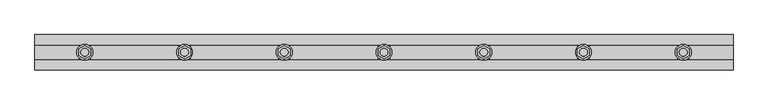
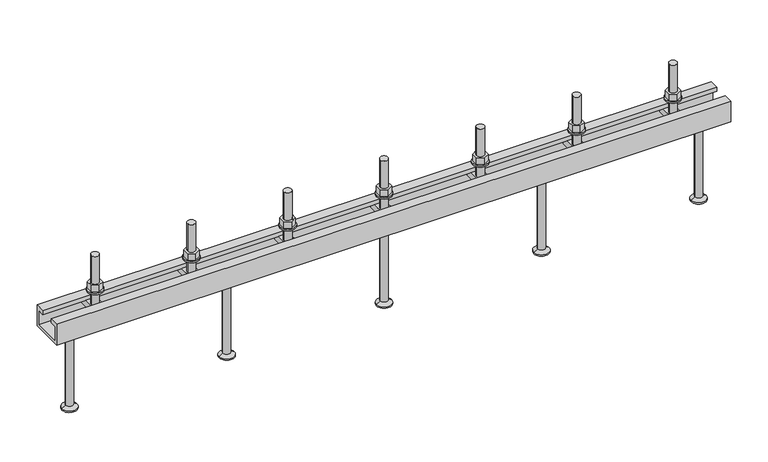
"""IFC4 building model written with IfcOpenShell, lengths in millimetres: fastener geometry, JTA-W JORDAHL® AnchorChannels : JTA-W L=1050 mm."""

import ifcopenshell
import ifcopenshell.guid

model = None  # the IFC model being written
_history = None  # IfcOwnerHistory: only IFC2X3 demands one
_inside = {}  # id of a spatial element -> (the spatial element, [elements in it])
_under = {}  # id of a project, library or spatial element -> (it, [spatial elements below it])
_declared = {}  # id of a project -> (the project, [libraries it declares])
_typed = {}  # id of a type object -> (the type object, [elements of that type])
_made_of = {}  # id of a material, layer set ... -> (it, [elements and type objects made of it])


def new_model(schema):
    """Start an empty IFC model of exactly this schema.

    Asked for "IFC4X3", IfcOpenShell would pick the latest addendum, in which some entities
    have other attributes; the version numbers below select the first issue.
    IFC2X3 requires an IfcOwnerHistory on every rooted entity: one is made here for all.
    """
    global model, _history
    if schema == "IFC4X3":
        model = ifcopenshell.file(schema_version=(4, 3, 0, 0))
    else:
        model = ifcopenshell.file(schema=schema)
    _inside.clear()
    _under.clear()
    _declared.clear()
    _typed.clear()
    _made_of.clear()
    _history = None
    if model.schema == "IFC2X3":
        org = make("IfcOrganization", Name="unknown")
        user = make(
            "IfcPersonAndOrganization",
            ThePerson=make("IfcPerson", FamilyName="unknown"),
            TheOrganization=org,
        )
        app = make(
            "IfcApplication",
            ApplicationDeveloper=org,
            Version="unknown",
            ApplicationFullName="unknown",
            ApplicationIdentifier="unknown",
        )
        _history = make(
            "IfcOwnerHistory",
            OwningUser=user,
            OwningApplication=app,
            ChangeAction="ADDED",
            CreationDate=0,
        )
    return model


def make(cls, **values):
    """One entity of the class cls with the attributes given. An attribute that is None is left unset."""
    return model.create_entity(
        cls, **{name: value for name, value in values.items() if value is not None}
    )


def rooted(cls, **values):
    """An entity with a GlobalId (a new one), such as an element, a storey or a relation."""
    return make(cls, GlobalId=ifcopenshell.guid.new(), OwnerHistory=_history, **values)


def si_unit(unit_type, name, prefix=None):
    """IfcSIUnit, for example si_unit("LENGTHUNIT", "METRE", prefix="MILLI")."""
    return make("IfcSIUnit", UnitType=unit_type, Prefix=prefix, Name=name)


def assignment(units):
    """IfcUnitAssignment: the units of a project."""
    return None if units is None else make("IfcUnitAssignment", Units=units)


def point(xyz):
    """IfcCartesianPoint."""
    return None if xyz is None else make("IfcCartesianPoint", Coordinates=xyz)


def direction(xyz):
    """IfcDirection."""
    return None if xyz is None else make("IfcDirection", DirectionRatios=xyz)


def frame(location, z_axis=None, x_axis=None):
    """IfcAxis2Placement3D, a coordinate frame: its origin and axes. An axis left out is left unset."""
    return make(
        "IfcAxis2Placement3D",
        Location=point(location),
        Axis=direction(z_axis),
        RefDirection=direction(x_axis),
    )


def frame_2d(location, x_axis=None):
    """IfcAxis2Placement2D, a coordinate frame in the plane: its origin and x axis."""
    return make(
        "IfcAxis2Placement2D", Location=point(location), RefDirection=direction(x_axis)
    )


def origin():
    """The frame at (0, 0, 0) with its axes left unset."""
    return frame((0.0, 0.0, 0.0))


def place(relative_to, where):
    """IfcLocalPlacement: puts the frame where relative to a parent placement (None: the world)."""
    return make(
        "IfcLocalPlacement", PlacementRelTo=relative_to, RelativePlacement=where
    )


def context(
    kind, dimensions, precision=None, world=None, true_north=None, identifier=None
):
    """IfcGeometricRepresentationContext, for example the 3D "Model" context."""
    return make(
        "IfcGeometricRepresentationContext",
        ContextIdentifier=identifier,
        ContextType=kind,
        CoordinateSpaceDimension=dimensions,
        Precision=precision,
        WorldCoordinateSystem=world,
        TrueNorth=true_north,
    )


def project(units=None, contexts=None):
    """IfcProject with its units and contexts."""
    return rooted(
        "IfcProject",
        Name="project",
        RepresentationContexts=contexts,
        UnitsInContext=assignment(units),
    )


def spatial(cls, under=None, at=None, **own):
    """A site, building, storey or space (cls), placed at a placement, below another one or the project."""
    s = rooted(cls, ObjectPlacement=at, **own)
    if under is not None:
        _under.setdefault(under.id(), (under, []))[1].append(s)
    return s


def polyline(points):
    """IfcPolyline through the points."""
    return make("IfcPolyline", Points=[point(p) for p in points])


def circle_curve(where, radius):
    """IfcCircle in the frame where."""
    return make("IfcCircle", Position=where, Radius=radius)


def trimmed(basis, trim1, trim2, sense, master):
    """IfcTrimmedCurve: the piece of a basis curve between two trims."""
    return make(
        "IfcTrimmedCurve",
        BasisCurve=basis,
        Trim1=trim1,
        Trim2=trim2,
        SenseAgreement=sense,
        MasterRepresentation=master,
    )


def segment(curve, same_sense, transition):
    """IfcCompositeCurveSegment."""
    return make(
        "IfcCompositeCurveSegment",
        Transition=transition,
        SameSense=same_sense,
        ParentCurve=curve,
    )


def composite_curve(segments, self_intersect=None):
    """IfcCompositeCurve: segments joined end to end."""
    return make("IfcCompositeCurve", Segments=segments, SelfIntersect=self_intersect)


def outline(outer, holes=None, kind="AREA"):
    """IfcArbitraryClosedProfileDef: a profile drawn as a closed curve; with holes, ...WithVoids."""
    if holes is None:
        return make("IfcArbitraryClosedProfileDef", ProfileType=kind, OuterCurve=outer)
    return make(
        "IfcArbitraryProfileDefWithVoids",
        ProfileType=kind,
        OuterCurve=outer,
        InnerCurves=holes,
    )


def extrude(swept, where, along, depth):
    """IfcExtrudedAreaSolid: the profile swept, set in the frame where, extruded along a direction by depth."""
    return make(
        "IfcExtrudedAreaSolid",
        SweptArea=swept,
        Position=where,
        ExtrudedDirection=direction(along),
        Depth=depth,
    )


def shape(context_of_items, identifier, shape_type, items):
    """IfcShapeRepresentation: the items that make up one representation, for example the "Body"."""
    return make(
        "IfcShapeRepresentation",
        ContextOfItems=context_of_items,
        RepresentationIdentifier=identifier,
        RepresentationType=shape_type,
        Items=items,
    )


def source(mapping_origin, context_of_items, identifier, shape_type, items):
    """IfcRepresentationMap: a shape defined once, which mapped items show again and again."""
    return make(
        "IfcRepresentationMap",
        MappingOrigin=mapping_origin,
        MappedRepresentation=shape(context_of_items, identifier, shape_type, items),
    )


def transform(
    local_origin,
    x_axis=None,
    y_axis=None,
    z_axis=None,
    scale=None,
    scale2=None,
    scale3=None,
    uniform=True,
):
    """IfcCartesianTransformationOperator3D, or its non-uniform kind. x_axis, y_axis, z_axis: its Axis1, 2, 3."""
    if uniform:
        return make(
            "IfcCartesianTransformationOperator3D",
            Axis1=direction(x_axis),
            Axis2=direction(y_axis),
            LocalOrigin=point(local_origin),
            Scale=scale,
            Axis3=direction(z_axis),
        )
    return make(
        "IfcCartesianTransformationOperator3DnonUniform",
        Axis1=direction(x_axis),
        Axis2=direction(y_axis),
        LocalOrigin=point(local_origin),
        Scale=scale,
        Axis3=direction(z_axis),
        Scale2=scale2,
        Scale3=scale3,
    )


def mapped(mapping_source, mapping_target):
    """IfcMappedItem: shows the shape of a source again, moved by a transform."""
    return make(
        "IfcMappedItem", MappingSource=mapping_source, MappingTarget=mapping_target
    )


def made_of(thing, what):
    """Note that an element or type object is made of a material, layer set ...; save() writes the relation."""
    if what is not None:
        _made_of.setdefault(what.id(), (what, []))[1].append(thing)
    return thing


def element(
    cls,
    number,
    at=None,
    inside=None,
    cuts=None,
    type_object=None,
    material=None,
    context=None,
    identifier="Body",
    shape_type=None,
    held_by="IfcProductDefinitionShape",
    body=None,
    shapes=None,
    **own,
):
    """One element of the class cls, such as IfcWall. Its Tag is "e" and its number.

    at: its placement. inside: the storey or other place that contains it. cuts: it is an
    opening in that element (IfcRelVoidsElement). A single representation is given by context,
    identifier, shape_type and body (its items); several are given by shapes. held_by: the class
    of the entity that holds the representations. save() writes the other relations.
    """
    e = rooted(cls, Tag="e%d" % number, ObjectPlacement=at, **own)
    if body is not None:
        shapes = [shape(context, identifier, shape_type, body)]
    if shapes is not None:
        e.Representation = make(held_by, Representations=shapes)
    if inside is not None:
        _inside.setdefault(inside.id(), (inside, []))[1].append(e)
    if cuts is not None:
        rooted(
            "IfcRelVoidsElement", RelatingBuildingElement=cuts, RelatedOpeningElement=e
        )
    if type_object is not None:
        _typed.setdefault(type_object.id(), (type_object, []))[1].append(e)
    return made_of(e, material)


def aggregate(whole, parts):
    """IfcRelAggregates: a whole, such as a stair, and the parts it consists of."""
    return rooted("IfcRelAggregates", RelatingObject=whole, RelatedObjects=parts)


def save(model, path):
    """Write the relations noted so far, then the file.

    IfcRelAggregates (storeys below a building ...), IfcRelContainedInSpatialStructure (elements
    in a storey), IfcRelDefinesByType, IfcRelAssociatesMaterial and IfcRelDeclares: one each for
    every whole, place, type object, material and project.
    """
    for whole, parts in _under.values():
        aggregate(whole, parts)
    for where, things in _inside.values():
        rooted(
            "IfcRelContainedInSpatialStructure",
            RelatedElements=things,
            RelatingStructure=where,
        )
    for kind, things in _typed.values():
        rooted("IfcRelDefinesByType", RelatedObjects=things, RelatingType=kind)
    for what, things in _made_of.values():
        rooted("IfcRelAssociatesMaterial", RelatedObjects=things, RelatingMaterial=what)
    for by, libraries in _declared.values():
        rooted("IfcRelDeclares", RelatingContext=by, RelatedDefinitions=libraries)
    model.write(path)


def plane_surface(at):
    """IfcPlane: the flat surface through the origin of the frame at, square to its z axis."""
    return make("IfcPlane", Position=at)


def cylinder_surface(at, radius):
    """IfcCylindricalSurface: all points at the distance radius from the z axis of the frame at."""
    return make("IfcCylindricalSurface", Position=at, Radius=radius)


def revolved_surface(curve, axis_point, axis_direction):
    """IfcSurfaceOfRevolution: the curve turned about the line through axis_point along axis_direction."""
    return make(
        "IfcSurfaceOfRevolution",
        SweptCurve=make("IfcArbitraryOpenProfileDef", ProfileType="CURVE", Curve=curve),
        AxisPosition=make("IfcAxis1Placement", Location=point(axis_point), Axis=direction(axis_direction)),
    )


def advanced_brep(points, edges, surfaces, faces):
    """IfcAdvancedBrep: a solid bounded by faces that lie on surfaces and meet in shared edges.

    An edge is (start, end): straight between two places in points (the first is 0);
    or (start, end, curve); or (start, end, curve, False) where it runs against its curve.
    A face is (place in surfaces, loops), or (place, loops, False) where it looks against
    its surface's normal. A loop lists edges by number (the first is 1), with a minus sign
    where the edge is run from its end to its start. The first loop is the outer one.
    """
    corners = [point(p) for p in points]
    vertices = [make("IfcVertexPoint", VertexGeometry=c) for c in corners]
    made = []
    for start, end, *more in edges:
        made.append(
            make(
                "IfcEdgeCurve",
                EdgeStart=vertices[start],
                EdgeEnd=vertices[end],
                EdgeGeometry=more[0] if more else make("IfcPolyline", Points=[corners[start], corners[end]]),
                SameSense=more[1] if len(more) > 1 else True,
            )
        )
    hull = []
    for where, loops, *sense in faces:
        bounds = []
        for j, loop in enumerate(loops):
            ring = [make("IfcOrientedEdge", EdgeElement=made[abs(k) - 1], Orientation=k > 0) for k in loop]
            bounds.append(
                make(
                    "IfcFaceOuterBound" if j == 0 else "IfcFaceBound",
                    Bound=make("IfcEdgeLoop", EdgeList=ring),
                    Orientation=True,
                )
            )
        hull.append(make("IfcAdvancedFace", Bounds=bounds, FaceSurface=surfaces[where], SameSense=sense[0] if sense else True))
    return make("IfcAdvancedBrep", Outer=make("IfcClosedShell", CfsFaces=hull))


def fastener_445ed979(model_context):
    return source(origin(), model_context, "Body", "SolidModel", [
        extrude(outline(polyline([(825.0, -10.3923048), (816.0, -5.1961524), (816.0, 5.1961524), (825.0, 10.3923048), (834.0, 5.1961524), (834.0, -5.1961524), (825.0, -10.3923048)]), holes=[composite_curve([segment(trimmed(circle_curve(frame_2d((825.0, 0.0)), 6.0), [point((819.0, 0.0))], [point((831.0, 0.0))], True, "CARTESIAN"), True, "CONTINUOUS"), segment(trimmed(circle_curve(frame_2d((825.0, 0.0)), 6.0), [point((831.0, 0.0))], [point((819.0, 0.0))], True, "CARTESIAN"), True, "CONTINUOUS")], self_intersect=False)]), frame((0.0, 0.0, 17.5), z_axis=(0.0, 0.0, 1.0), x_axis=(1.0, 0.0, 0.0)), (0.0, 0.0, 1.0), 10.8),
        extrude(outline(composite_curve([segment(trimmed(circle_curve(frame_2d((825.0, 0.0)), 12.0), [point((813.0, 0.0))], [point((837.0, 0.0))], False, "CARTESIAN"), True, "CONTINUOUS"), segment(trimmed(circle_curve(frame_2d((825.0, 0.0)), 12.0), [point((837.0, 0.0))], [point((813.0, 0.0))], False, "CARTESIAN"), True, "CONTINUOUS")], self_intersect=False), holes=[composite_curve([segment(trimmed(circle_curve(frame_2d((825.0, 0.0)), 6.5), [point((818.5, 0.0))], [point((831.5, 0.0))], True, "CARTESIAN"), True, "CONTINUOUS"), segment(trimmed(circle_curve(frame_2d((825.0, 0.0)), 6.5), [point((831.5, 0.0))], [point((818.5, 0.0))], True, "CARTESIAN"), True, "CONTINUOUS")], self_intersect=False)]), frame((0.0, 0.0, 15.0), z_axis=(0.0, 0.0, 1.0), x_axis=(1.0, 0.0, 0.0)), (0.0, 0.0, 1.0), 2.5),
        extrude(outline(polyline([(675.0, -10.3923048), (666.0, -5.1961524), (666.0, 5.1961524), (675.0, 10.3923048), (684.0, 5.1961524), (684.0, -5.1961524), (675.0, -10.3923048)]), holes=[composite_curve([segment(trimmed(circle_curve(frame_2d((675.0, 0.0)), 6.0), [point((669.0, 0.0))], [point((681.0, 0.0))], True, "CARTESIAN"), True, "CONTINUOUS"), segment(trimmed(circle_curve(frame_2d((675.0, 0.0)), 6.0), [point((681.0, 0.0))], [point((669.0, 0.0))], True, "CARTESIAN"), True, "CONTINUOUS")], self_intersect=False)]), frame((0.0, 0.0, 17.5), z_axis=(0.0, 0.0, 1.0), x_axis=(1.0, 0.0, 0.0)), (0.0, 0.0, 1.0), 10.8),
        extrude(outline(composite_curve([segment(trimmed(circle_curve(frame_2d((675.0, 0.0)), 12.0), [point((663.0, 0.0))], [point((687.0, 0.0))], False, "CARTESIAN"), True, "CONTINUOUS"), segment(trimmed(circle_curve(frame_2d((675.0, 0.0)), 12.0), [point((687.0, 0.0))], [point((663.0, 0.0))], False, "CARTESIAN"), True, "CONTINUOUS")], self_intersect=False), holes=[composite_curve([segment(trimmed(circle_curve(frame_2d((675.0, 0.0)), 6.5), [point((668.5, 0.0))], [point((681.5, 0.0))], True, "CARTESIAN"), True, "CONTINUOUS"), segment(trimmed(circle_curve(frame_2d((675.0, 0.0)), 6.5), [point((681.5, 0.0))], [point((668.5, 0.0))], True, "CARTESIAN"), True, "CONTINUOUS")], self_intersect=False)]), frame((0.0, 0.0, 15.0), z_axis=(0.0, 0.0, 1.0), x_axis=(1.0, 0.0, 0.0)), (0.0, 0.0, 1.0), 2.5),
        extrude(outline(polyline([(525.0, -10.3923048), (516.0, -5.1961524), (516.0, 5.1961524), (525.0, 10.3923048), (534.0, 5.1961524), (534.0, -5.1961524), (525.0, -10.3923048)]), holes=[composite_curve([segment(trimmed(circle_curve(frame_2d((525.0, 0.0)), 6.0), [point((519.0, 0.0))], [point((531.0, 0.0))], True, "CARTESIAN"), True, "CONTINUOUS"), segment(trimmed(circle_curve(frame_2d((525.0, 0.0)), 6.0), [point((531.0, 0.0))], [point((519.0, 0.0))], True, "CARTESIAN"), True, "CONTINUOUS")], self_intersect=False)]), frame((0.0, 0.0, 17.5), z_axis=(0.0, 0.0, 1.0), x_axis=(1.0, 0.0, 0.0)), (0.0, 0.0, 1.0), 10.8),
        extrude(outline(composite_curve([segment(trimmed(circle_curve(frame_2d((525.0, 0.0)), 12.0), [point((513.0, 0.0))], [point((537.0, 0.0))], False, "CARTESIAN"), True, "CONTINUOUS"), segment(trimmed(circle_curve(frame_2d((525.0, 0.0)), 12.0), [point((537.0, 0.0))], [point((513.0, 0.0))], False, "CARTESIAN"), True, "CONTINUOUS")], self_intersect=False), holes=[composite_curve([segment(trimmed(circle_curve(frame_2d((525.0, 0.0)), 6.5), [point((518.5, 0.0))], [point((531.5, 0.0))], True, "CARTESIAN"), True, "CONTINUOUS"), segment(trimmed(circle_curve(frame_2d((525.0, 0.0)), 6.5), [point((531.5, 0.0))], [point((518.5, 0.0))], True, "CARTESIAN"), True, "CONTINUOUS")], self_intersect=False)]), frame((0.0, 0.0, 15.0), z_axis=(0.0, 0.0, 1.0), x_axis=(1.0, 0.0, 0.0)), (0.0, 0.0, 1.0), 2.5),
        extrude(outline(polyline([(375.0, -10.3923048), (366.0, -5.1961524), (366.0, 5.1961524), (375.0, 10.3923048), (384.0, 5.1961524), (384.0, -5.1961524), (375.0, -10.3923048)]), holes=[composite_curve([segment(trimmed(circle_curve(frame_2d((375.0, 0.0)), 6.0), [point((369.0, 0.0))], [point((381.0, 0.0))], True, "CARTESIAN"), True, "CONTINUOUS"), segment(trimmed(circle_curve(frame_2d((375.0, 0.0)), 6.0), [point((381.0, 0.0))], [point((369.0, 0.0))], True, "CARTESIAN"), True, "CONTINUOUS")], self_intersect=False)]), frame((0.0, 0.0, 17.5), z_axis=(0.0, 0.0, 1.0), x_axis=(1.0, 0.0, 0.0)), (0.0, 0.0, 1.0), 10.8),
        extrude(outline(composite_curve([segment(trimmed(circle_curve(frame_2d((375.0, 0.0)), 12.0), [point((363.0, 0.0))], [point((387.0, 0.0))], False, "CARTESIAN"), True, "CONTINUOUS"), segment(trimmed(circle_curve(frame_2d((375.0, 0.0)), 12.0), [point((387.0, 0.0))], [point((363.0, 0.0))], False, "CARTESIAN"), True, "CONTINUOUS")], self_intersect=False), holes=[composite_curve([segment(trimmed(circle_curve(frame_2d((375.0, 0.0)), 6.5), [point((368.5, 0.0))], [point((381.5, 0.0))], True, "CARTESIAN"), True, "CONTINUOUS"), segment(trimmed(circle_curve(frame_2d((375.0, 0.0)), 6.5), [point((381.5, 0.0))], [point((368.5, 0.0))], True, "CARTESIAN"), True, "CONTINUOUS")], self_intersect=False)]), frame((0.0, 0.0, 15.0), z_axis=(0.0, 0.0, 1.0), x_axis=(1.0, 0.0, 0.0)), (0.0, 0.0, 1.0), 2.5),
        extrude(outline(polyline([(225.0, -10.3923048), (216.0, -5.1961524), (216.0, 5.1961524), (225.0, 10.3923048), (234.0, 5.1961524), (234.0, -5.1961524), (225.0, -10.3923048)]), holes=[composite_curve([segment(trimmed(circle_curve(frame_2d((225.0, 0.0)), 6.0), [point((219.0, 0.0))], [point((231.0, 0.0))], True, "CARTESIAN"), True, "CONTINUOUS"), segment(trimmed(circle_curve(frame_2d((225.0, 0.0)), 6.0), [point((231.0, 0.0))], [point((219.0, 0.0))], True, "CARTESIAN"), True, "CONTINUOUS")], self_intersect=False)]), frame((0.0, 0.0, 17.5), z_axis=(0.0, 0.0, 1.0), x_axis=(1.0, 0.0, 0.0)), (0.0, 0.0, 1.0), 10.8),
        extrude(outline(composite_curve([segment(trimmed(circle_curve(frame_2d((225.0, 0.0)), 12.0), [point((213.0, 0.0))], [point((237.0, 0.0))], False, "CARTESIAN"), True, "CONTINUOUS"), segment(trimmed(circle_curve(frame_2d((225.0, 0.0)), 12.0), [point((237.0, 0.0))], [point((213.0, 0.0))], False, "CARTESIAN"), True, "CONTINUOUS")], self_intersect=False), holes=[composite_curve([segment(trimmed(circle_curve(frame_2d((225.0, 0.0)), 6.5), [point((218.5, 0.0))], [point((231.5, 0.0))], True, "CARTESIAN"), True, "CONTINUOUS"), segment(trimmed(circle_curve(frame_2d((225.0, 0.0)), 6.5), [point((231.5, 0.0))], [point((218.5, 0.0))], True, "CARTESIAN"), True, "CONTINUOUS")], self_intersect=False)]), frame((0.0, 0.0, 15.0), z_axis=(0.0, 0.0, 1.0), x_axis=(1.0, 0.0, 0.0)), (0.0, 0.0, 1.0), 2.5),
        advanced_brep(
        [(833.5, -20.7, -6.5), (833.5, -20.7, -16.5), (833.5, 20.7, -16.5), (833.5, 20.7, -6.5), (816.5, -20.7, -6.5), (816.5, 20.7, -6.5), (816.5, 20.7, -16.5), (816.5, -20.7, -16.5), (831.0, 0.0, -6.5), (819.0, 0.0, -6.5), (819.0, 0.0, 73.5), (831.0, 0.0, 73.5)],
        [
            (0, 1),
            (1, 2),
            (2, 3),
            (3, 0),
            (4, 5),
            (5, 6),
            (6, 7),
            (7, 4),
            (3, 5),
            (4, 0),
            (8, 9, circle_curve(frame((825.0, 0.0, -6.5), z_axis=(0.0, 0.0, -1.0), x_axis=(1.0, 0.0, 0.0)), 6.0)),
            (9, 8, circle_curve(frame((825.0, 0.0, -6.5), z_axis=(0.0, 0.0, -1.0), x_axis=(1.0, 0.0, 0.0)), 6.0)),
            (2, 6),
            (1, 7),
            (10, 11, circle_curve(frame((825.0, 0.0, 73.5), z_axis=(0.0, 0.0, 1.0), x_axis=(1.0, 0.0, 0.0)), 6.0)),
            (11, 10, circle_curve(frame((825.0, 0.0, 73.5), z_axis=(0.0, 0.0, 1.0), x_axis=(1.0, 0.0, 0.0)), 6.0)),
            (11, 8),
            (9, 10),
        ],
        [
            plane_surface(frame((833.5, 20.7, -6.5), z_axis=(1.0, 0.0, 0.0), x_axis=(0.0, 1.0, 0.0))),
            plane_surface(frame((816.5, 20.7, -6.5), z_axis=(-1.0, 0.0, 0.0), x_axis=(0.0, -1.0, 0.0))),
            plane_surface(frame((833.5, -20.7, -6.5), z_axis=(0.0, 0.0, 1.0), x_axis=(-1.0, 0.0, 0.0))),
            plane_surface(frame((833.5, 20.7, -6.5), z_axis=(0.0, 1.0, 0.0), x_axis=(-1.0, 0.0, 0.0))),
            plane_surface(frame((833.5, 20.7, -16.5), z_axis=(0.0, 0.0, -1.0), x_axis=(-1.0, 0.0, 0.0))),
            plane_surface(frame((833.5, -20.7, -16.5), z_axis=(0.0, -1.0, 0.0), x_axis=(-1.0, 0.0, 0.0))),
            plane_surface(frame((831.0, 0.0, 73.5), z_axis=(0.0, 0.0, 1.0), x_axis=(0.0, -1.0, 0.0))),
            cylinder_surface(frame((825.0, 0.0, -6.5), z_axis=(0.0, 0.0, 1.0), x_axis=(1.0, 0.0, 0.0)), 6.0),
        ],
        [
            (0, [[1, 2, 3, 4]]),
            (1, [[5, 6, 7, 8]]),
            (2, [[9, -5, 10, -4], [11, 12]]),
            (3, [[13, -6, -9, -3]]),
            (4, [[14, -7, -13, -2]]),
            (5, [[-10, -8, -14, -1]]),
            (6, [[15, 16]]),
            (7, [[17, -12, 18, -16]]),
            (7, [[-18, -11, -17, -15]]),
        ],
    ),
        advanced_brep(
        [(683.5, -20.7, -6.5), (683.5, -20.7, -16.5), (683.5, 20.7, -16.5), (683.5, 20.7, -6.5), (666.5, -20.7, -6.5), (666.5, 20.7, -6.5), (666.5, 20.7, -16.5), (666.5, -20.7, -16.5), (681.0, 0.0, -6.5), (669.0, 0.0, -6.5), (669.0, 0.0, 73.5), (681.0, 0.0, 73.5)],
        [
            (0, 1),
            (1, 2),
            (2, 3),
            (3, 0),
            (4, 5),
            (5, 6),
            (6, 7),
            (7, 4),
            (3, 5),
            (4, 0),
            (8, 9, circle_curve(frame((675.0, 0.0, -6.5), z_axis=(0.0, 0.0, -1.0), x_axis=(1.0, 0.0, 0.0)), 6.0)),
            (9, 8, circle_curve(frame((675.0, 0.0, -6.5), z_axis=(0.0, 0.0, -1.0), x_axis=(1.0, 0.0, 0.0)), 6.0)),
            (2, 6),
            (1, 7),
            (10, 11, circle_curve(frame((675.0, 0.0, 73.5), z_axis=(0.0, 0.0, 1.0), x_axis=(1.0, 0.0, 0.0)), 6.0)),
            (11, 10, circle_curve(frame((675.0, 0.0, 73.5), z_axis=(0.0, 0.0, 1.0), x_axis=(1.0, 0.0, 0.0)), 6.0)),
            (11, 8),
            (9, 10),
        ],
        [
            plane_surface(frame((683.5, 20.7, -6.5), z_axis=(1.0, 0.0, 0.0), x_axis=(0.0, 1.0, 0.0))),
            plane_surface(frame((666.5, 20.7, -6.5), z_axis=(-1.0, 0.0, 0.0), x_axis=(0.0, -1.0, 0.0))),
            plane_surface(frame((683.5, -20.7, -6.5), z_axis=(0.0, 0.0, 1.0), x_axis=(-1.0, 0.0, 0.0))),
            plane_surface(frame((683.5, 20.7, -6.5), z_axis=(0.0, 1.0, 0.0), x_axis=(-1.0, 0.0, 0.0))),
            plane_surface(frame((683.5, 20.7, -16.5), z_axis=(0.0, 0.0, -1.0), x_axis=(-1.0, 0.0, 0.0))),
            plane_surface(frame((683.5, -20.7, -16.5), z_axis=(0.0, -1.0, 0.0), x_axis=(-1.0, 0.0, 0.0))),
            plane_surface(frame((681.0, 0.0, 73.5), z_axis=(0.0, 0.0, 1.0), x_axis=(0.0, -1.0, 0.0))),
            cylinder_surface(frame((675.0, 0.0, -6.5), z_axis=(0.0, 0.0, 1.0), x_axis=(1.0, 0.0, 0.0)), 6.0),
        ],
        [
            (0, [[1, 2, 3, 4]]),
            (1, [[5, 6, 7, 8]]),
            (2, [[9, -5, 10, -4], [11, 12]]),
            (3, [[13, -6, -9, -3]]),
            (4, [[14, -7, -13, -2]]),
            (5, [[-10, -8, -14, -1]]),
            (6, [[15, 16]]),
            (7, [[17, -12, 18, -16]]),
            (7, [[-18, -11, -17, -15]]),
        ],
    ),
        advanced_brep(
        [(533.5, -20.7, -6.5), (533.5, -20.7, -16.5), (533.5, 20.7, -16.5), (533.5, 20.7, -6.5), (516.5, -20.7, -6.5), (516.5, 20.7, -6.5), (516.5, 20.7, -16.5), (516.5, -20.7, -16.5), (531.0, 0.0, -6.5), (519.0, 0.0, -6.5), (519.0, 0.0, 73.5), (531.0, 0.0, 73.5)],
        [
            (0, 1),
            (1, 2),
            (2, 3),
            (3, 0),
            (4, 5),
            (5, 6),
            (6, 7),
            (7, 4),
            (3, 5),
            (4, 0),
            (8, 9, circle_curve(frame((525.0, 0.0, -6.5), z_axis=(0.0, 0.0, -1.0), x_axis=(1.0, 0.0, 0.0)), 6.0)),
            (9, 8, circle_curve(frame((525.0, 0.0, -6.5), z_axis=(0.0, 0.0, -1.0), x_axis=(1.0, 0.0, 0.0)), 6.0)),
            (2, 6),
            (1, 7),
            (10, 11, circle_curve(frame((525.0, 0.0, 73.5), z_axis=(0.0, 0.0, 1.0), x_axis=(1.0, 0.0, 0.0)), 6.0)),
            (11, 10, circle_curve(frame((525.0, 0.0, 73.5), z_axis=(0.0, 0.0, 1.0), x_axis=(1.0, 0.0, 0.0)), 6.0)),
            (11, 8),
            (9, 10),
        ],
        [
            plane_surface(frame((533.5, 20.7, -6.5), z_axis=(1.0, 0.0, 0.0), x_axis=(0.0, 1.0, 0.0))),
            plane_surface(frame((516.5, 20.7, -6.5), z_axis=(-1.0, 0.0, 0.0), x_axis=(0.0, -1.0, 0.0))),
            plane_surface(frame((533.5, -20.7, -6.5), z_axis=(0.0, 0.0, 1.0), x_axis=(-1.0, 0.0, 0.0))),
            plane_surface(frame((533.5, 20.7, -6.5), z_axis=(0.0, 1.0, 0.0), x_axis=(-1.0, 0.0, 0.0))),
            plane_surface(frame((533.5, 20.7, -16.5), z_axis=(0.0, 0.0, -1.0), x_axis=(-1.0, 0.0, 0.0))),
            plane_surface(frame((533.5, -20.7, -16.5), z_axis=(0.0, -1.0, 0.0), x_axis=(-1.0, 0.0, 0.0))),
            plane_surface(frame((531.0, 0.0, 73.5), z_axis=(0.0, 0.0, 1.0), x_axis=(0.0, -1.0, 0.0))),
            cylinder_surface(frame((525.0, 0.0, -6.5), z_axis=(0.0, 0.0, 1.0), x_axis=(1.0, 0.0, 0.0)), 6.0),
        ],
        [
            (0, [[1, 2, 3, 4]]),
            (1, [[5, 6, 7, 8]]),
            (2, [[9, -5, 10, -4], [11, 12]]),
            (3, [[13, -6, -9, -3]]),
            (4, [[14, -7, -13, -2]]),
            (5, [[-10, -8, -14, -1]]),
            (6, [[15, 16]]),
            (7, [[17, -12, 18, -16]]),
            (7, [[-18, -11, -17, -15]]),
        ],
    ),
        advanced_brep(
        [(383.5, -20.7, -6.5), (383.5, -20.7, -16.5), (383.5, 20.7, -16.5), (383.5, 20.7, -6.5), (366.5, -20.7, -6.5), (366.5, 20.7, -6.5), (366.5, 20.7, -16.5), (366.5, -20.7, -16.5), (381.0, 0.0, -6.5), (369.0, 0.0, -6.5), (369.0, 0.0, 73.5), (381.0, 0.0, 73.5)],
        [
            (0, 1),
            (1, 2),
            (2, 3),
            (3, 0),
            (4, 5),
            (5, 6),
            (6, 7),
            (7, 4),
            (3, 5),
            (4, 0),
            (8, 9, circle_curve(frame((375.0, 0.0, -6.5), z_axis=(0.0, 0.0, -1.0), x_axis=(1.0, 0.0, 0.0)), 6.0)),
            (9, 8, circle_curve(frame((375.0, 0.0, -6.5), z_axis=(0.0, 0.0, -1.0), x_axis=(1.0, 0.0, 0.0)), 6.0)),
            (2, 6),
            (1, 7),
            (10, 11, circle_curve(frame((375.0, 0.0, 73.5), z_axis=(0.0, 0.0, 1.0), x_axis=(1.0, 0.0, 0.0)), 6.0)),
            (11, 10, circle_curve(frame((375.0, 0.0, 73.5), z_axis=(0.0, 0.0, 1.0), x_axis=(1.0, 0.0, 0.0)), 6.0)),
            (11, 8),
            (9, 10),
        ],
        [
            plane_surface(frame((383.5, 20.7, -6.5), z_axis=(1.0, 0.0, 0.0), x_axis=(0.0, 1.0, 0.0))),
            plane_surface(frame((366.5, 20.7, -6.5), z_axis=(-1.0, 0.0, 0.0), x_axis=(0.0, -1.0, 0.0))),
            plane_surface(frame((383.5, -20.7, -6.5), z_axis=(0.0, 0.0, 1.0), x_axis=(-1.0, 0.0, 0.0))),
            plane_surface(frame((383.5, 20.7, -6.5), z_axis=(0.0, 1.0, 0.0), x_axis=(-1.0, 0.0, 0.0))),
            plane_surface(frame((383.5, 20.7, -16.5), z_axis=(0.0, 0.0, -1.0), x_axis=(-1.0, 0.0, 0.0))),
            plane_surface(frame((383.5, -20.7, -16.5), z_axis=(0.0, -1.0, 0.0), x_axis=(-1.0, 0.0, 0.0))),
            plane_surface(frame((381.0, 0.0, 73.5), z_axis=(0.0, 0.0, 1.0), x_axis=(0.0, -1.0, 0.0))),
            cylinder_surface(frame((375.0, 0.0, -6.5), z_axis=(0.0, 0.0, 1.0), x_axis=(1.0, 0.0, 0.0)), 6.0),
        ],
        [
            (0, [[1, 2, 3, 4]]),
            (1, [[5, 6, 7, 8]]),
            (2, [[9, -5, 10, -4], [11, 12]]),
            (3, [[13, -6, -9, -3]]),
            (4, [[14, -7, -13, -2]]),
            (5, [[-10, -8, -14, -1]]),
            (6, [[15, 16]]),
            (7, [[17, -12, 18, -16]]),
            (7, [[-18, -11, -17, -15]]),
        ],
    ),
        advanced_brep(
        [(233.5, -20.7, -6.5), (233.5, -20.7, -16.5), (233.5, 20.7, -16.5), (233.5, 20.7, -6.5), (216.5, -20.7, -6.5), (216.5, 20.7, -6.5), (216.5, 20.7, -16.5), (216.5, -20.7, -16.5), (231.0, 0.0, -6.5), (219.0, 0.0, -6.5), (219.0, 0.0, 73.5), (231.0, 0.0, 73.5)],
        [
            (0, 1),
            (1, 2),
            (2, 3),
            (3, 0),
            (4, 5),
            (5, 6),
            (6, 7),
            (7, 4),
            (3, 5),
            (4, 0),
            (8, 9, circle_curve(frame((225.0, 0.0, -6.5), z_axis=(0.0, 0.0, -1.0), x_axis=(1.0, 0.0, 0.0)), 6.0)),
            (9, 8, circle_curve(frame((225.0, 0.0, -6.5), z_axis=(0.0, 0.0, -1.0), x_axis=(1.0, 0.0, 0.0)), 6.0)),
            (2, 6),
            (1, 7),
            (10, 11, circle_curve(frame((225.0, 0.0, 73.5), z_axis=(0.0, 0.0, 1.0), x_axis=(1.0, 0.0, 0.0)), 6.0)),
            (11, 10, circle_curve(frame((225.0, 0.0, 73.5), z_axis=(0.0, 0.0, 1.0), x_axis=(1.0, 0.0, 0.0)), 6.0)),
            (11, 8),
            (9, 10),
        ],
        [
            plane_surface(frame((233.5, 20.7, -6.5), z_axis=(1.0, 0.0, 0.0), x_axis=(0.0, 1.0, 0.0))),
            plane_surface(frame((216.5, 20.7, -6.5), z_axis=(-1.0, 0.0, 0.0), x_axis=(0.0, -1.0, 0.0))),
            plane_surface(frame((233.5, -20.7, -6.5), z_axis=(0.0, 0.0, 1.0), x_axis=(-1.0, 0.0, 0.0))),
            plane_surface(frame((233.5, 20.7, -6.5), z_axis=(0.0, 1.0, 0.0), x_axis=(-1.0, 0.0, 0.0))),
            plane_surface(frame((233.5, 20.7, -16.5), z_axis=(0.0, 0.0, -1.0), x_axis=(-1.0, 0.0, 0.0))),
            plane_surface(frame((233.5, -20.7, -16.5), z_axis=(0.0, -1.0, 0.0), x_axis=(-1.0, 0.0, 0.0))),
            plane_surface(frame((231.0, 0.0, 73.5), z_axis=(0.0, 0.0, 1.0), x_axis=(0.0, -1.0, 0.0))),
            cylinder_surface(frame((225.0, 0.0, -6.5), z_axis=(0.0, 0.0, 1.0), x_axis=(1.0, 0.0, 0.0)), 6.0),
        ],
        [
            (0, [[1, 2, 3, 4]]),
            (1, [[5, 6, 7, 8]]),
            (2, [[9, -5, 10, -4], [11, 12]]),
            (3, [[13, -6, -9, -3]]),
            (4, [[14, -7, -13, -2]]),
            (5, [[-10, -8, -14, -1]]),
            (6, [[15, 16]]),
            (7, [[17, -12, 18, -16]]),
            (7, [[-18, -11, -17, -15]]),
        ],
    ),
        advanced_brep(
        [(770.0, 0.0, -34.0), (752.5, 0.0, -34.0), (787.5, 0.0, -34.0), (758.2, 0.0, -165.0), (770.0, 0.0, -165.0), (781.8, 0.0, -165.0), (758.2, 0.0, -163.0), (781.8, 0.0, -163.0), (764.2, 0.0, -159.5358984), (775.8, 0.0, -159.5358984), (764.2, 0.0, -37.0), (775.8, 0.0, -37.0)],
        [
            (0, 1),
            (1, 2, circle_curve(frame((770.0, 0.0, -34.0), z_axis=(0.0, 0.0, 1.0), x_axis=(1.0, 0.0, 0.0)), 17.5)),
            (2, 0),
            (2, 1, circle_curve(frame((770.0, 0.0, -34.0), z_axis=(0.0, 0.0, 1.0), x_axis=(1.0, 0.0, 0.0)), 17.5)),
            (3, 4),
            (4, 5),
            (5, 3, circle_curve(frame((770.0, 0.0, -165.0), z_axis=(0.0, 0.0, -1.0), x_axis=(1.0, 0.0, 0.0)), 11.8)),
            (3, 5, circle_curve(frame((770.0, 0.0, -165.0), z_axis=(0.0, 0.0, -1.0), x_axis=(1.0, 0.0, 0.0)), 11.8)),
            (6, 3),
            (5, 7),
            (7, 6, circle_curve(frame((770.0, 0.0, -163.0), z_axis=(0.0, 0.0, -1.0), x_axis=(1.0, 0.0, 0.0)), 11.8)),
            (6, 7, circle_curve(frame((770.0, 0.0, -163.0), z_axis=(0.0, 0.0, -1.0), x_axis=(1.0, 0.0, 0.0)), 11.8)),
            (8, 6),
            (7, 9),
            (9, 8, circle_curve(frame((770.0, 0.0, -159.5358984), z_axis=(0.0, 0.0, -1.0), x_axis=(1.0, 0.0, 0.0)), 5.8)),
            (8, 9, circle_curve(frame((770.0, 0.0, -159.5358984), z_axis=(0.0, 0.0, -1.0), x_axis=(1.0, 0.0, 0.0)), 5.8)),
            (10, 8),
            (9, 11),
            (11, 10, circle_curve(frame((770.0, 0.0, -37.0), z_axis=(0.0, 0.0, -1.0), x_axis=(1.0, 0.0, 0.0)), 5.8)),
            (10, 11, circle_curve(frame((770.0, 0.0, -37.0), z_axis=(0.0, 0.0, -1.0), x_axis=(1.0, 0.0, 0.0)), 5.8)),
            (1, 10),
            (11, 2),
        ],
        [
            plane_surface(frame((770.0, 0.0, -34.0), z_axis=(0.0, 0.0, 1.0), x_axis=(1.0, 0.0, 0.0))),
            plane_surface(frame((770.0, 0.0, -165.0), z_axis=(0.0, 0.0, -1.0), x_axis=(1.0, 0.0, 0.0))),
            cylinder_surface(frame((770.0, 0.0, 2345.3150031), z_axis=(0.0, 0.0, 1.0), x_axis=(1.0, 0.0, 0.0)), 11.8),
            revolved_surface(polyline([(781.8, 0.0, -163.0), (775.8, 0.0, -159.5358984)]), (770.0, 0.0, 2345.3150031), (0.0, 0.0, 1.0)),
            cylinder_surface(frame((770.0, 0.0, 2345.3150031), z_axis=(0.0, 0.0, 1.0), x_axis=(1.0, 0.0, 0.0)), 5.8),
            revolved_surface(polyline([(775.8, 0.0, -37.0), (787.5, 0.0, -34.0)]), (770.0, 0.0, 2345.3150031), (0.0, 0.0, 1.0)),
        ],
        [
            (0, [[1, 2, 3]]),
            (0, [[-3, 4, -1]]),
            (1, [[5, 6, 7]]),
            (1, [[-6, -5, 8]]),
            (2, [[9, -7, 10, 11]]),
            (2, [[-10, -8, -9, 12]]),
            (3, [[13, -11, 14, 15]]),
            (3, [[-14, -12, -13, 16]]),
            (4, [[17, -15, 18, 19]]),
            (4, [[-18, -16, -17, 20]]),
            (5, [[21, -19, 22, -2]]),
            (5, [[-22, -20, -21, -4]]),
        ],
    ),
        advanced_brep(
        [(525.0, 0.0, -34.0), (507.5, 0.0, -34.0), (542.5, 0.0, -34.0), (513.2, 0.0, -165.0), (525.0, 0.0, -165.0), (536.8, 0.0, -165.0), (513.2, 0.0, -163.0), (536.8, 0.0, -163.0), (519.2, 0.0, -159.5358984), (530.8, 0.0, -159.5358984), (519.2, 0.0, -37.0), (530.8, 0.0, -37.0)],
        [
            (0, 1),
            (1, 2, circle_curve(frame((525.0, 0.0, -34.0), z_axis=(0.0, 0.0, 1.0), x_axis=(1.0, 0.0, 0.0)), 17.5)),
            (2, 0),
            (2, 1, circle_curve(frame((525.0, 0.0, -34.0), z_axis=(0.0, 0.0, 1.0), x_axis=(1.0, 0.0, 0.0)), 17.5)),
            (3, 4),
            (4, 5),
            (5, 3, circle_curve(frame((525.0, 0.0, -165.0), z_axis=(0.0, 0.0, -1.0), x_axis=(1.0, 0.0, 0.0)), 11.8)),
            (3, 5, circle_curve(frame((525.0, 0.0, -165.0), z_axis=(0.0, 0.0, -1.0), x_axis=(1.0, 0.0, 0.0)), 11.8)),
            (6, 3),
            (5, 7),
            (7, 6, circle_curve(frame((525.0, 0.0, -163.0), z_axis=(0.0, 0.0, -1.0), x_axis=(1.0, 0.0, 0.0)), 11.8)),
            (6, 7, circle_curve(frame((525.0, 0.0, -163.0), z_axis=(0.0, 0.0, -1.0), x_axis=(1.0, 0.0, 0.0)), 11.8)),
            (8, 6),
            (7, 9),
            (9, 8, circle_curve(frame((525.0, 0.0, -159.5358984), z_axis=(0.0, 0.0, -1.0), x_axis=(1.0, 0.0, 0.0)), 5.8)),
            (8, 9, circle_curve(frame((525.0, 0.0, -159.5358984), z_axis=(0.0, 0.0, -1.0), x_axis=(1.0, 0.0, 0.0)), 5.8)),
            (10, 8),
            (9, 11),
            (11, 10, circle_curve(frame((525.0, 0.0, -37.0), z_axis=(0.0, 0.0, -1.0), x_axis=(1.0, 0.0, 0.0)), 5.8)),
            (10, 11, circle_curve(frame((525.0, 0.0, -37.0), z_axis=(0.0, 0.0, -1.0), x_axis=(1.0, 0.0, 0.0)), 5.8)),
            (1, 10),
            (11, 2),
        ],
        [
            plane_surface(frame((525.0, 0.0, -34.0), z_axis=(0.0, 0.0, 1.0), x_axis=(1.0, 0.0, 0.0))),
            plane_surface(frame((525.0, 0.0, -165.0), z_axis=(0.0, 0.0, -1.0), x_axis=(1.0, 0.0, 0.0))),
            cylinder_surface(frame((525.0, 0.0, 2345.3150031), z_axis=(0.0, 0.0, 1.0), x_axis=(1.0, 0.0, 0.0)), 11.8),
            revolved_surface(polyline([(536.8, 0.0, -163.0), (530.8, 0.0, -159.5358984)]), (525.0, 0.0, 2345.3150031), (0.0, 0.0, 1.0)),
            cylinder_surface(frame((525.0, 0.0, 2345.3150031), z_axis=(0.0, 0.0, 1.0), x_axis=(1.0, 0.0, 0.0)), 5.8),
            revolved_surface(polyline([(530.8, 0.0, -37.0), (542.5, 0.0, -34.0)]), (525.0, 0.0, 2345.3150031), (0.0, 0.0, 1.0)),
        ],
        [
            (0, [[1, 2, 3]]),
            (0, [[-3, 4, -1]]),
            (1, [[5, 6, 7]]),
            (1, [[-6, -5, 8]]),
            (2, [[9, -7, 10, 11]]),
            (2, [[-10, -8, -9, 12]]),
            (3, [[13, -11, 14, 15]]),
            (3, [[-14, -12, -13, 16]]),
            (4, [[17, -15, 18, 19]]),
            (4, [[-18, -16, -17, 20]]),
            (5, [[21, -19, 22, -2]]),
            (5, [[-22, -20, -21, -4]]),
        ],
    ),
        advanced_brep(
        [(280.0, 0.0, -34.0), (262.5, 0.0, -34.0), (297.5, 0.0, -34.0), (268.2, 0.0, -165.0), (280.0, 0.0, -165.0), (291.8, 0.0, -165.0), (268.2, 0.0, -163.0), (291.8, 0.0, -163.0), (274.2, 0.0, -159.5358984), (285.8, 0.0, -159.5358984), (274.2, 0.0, -37.0), (285.8, 0.0, -37.0)],
        [
            (0, 1),
            (1, 2, circle_curve(frame((280.0, 0.0, -34.0), z_axis=(0.0, 0.0, 1.0), x_axis=(1.0, 0.0, 0.0)), 17.5)),
            (2, 0),
            (2, 1, circle_curve(frame((280.0, 0.0, -34.0), z_axis=(0.0, 0.0, 1.0), x_axis=(1.0, 0.0, 0.0)), 17.5)),
            (3, 4),
            (4, 5),
            (5, 3, circle_curve(frame((280.0, 0.0, -165.0), z_axis=(0.0, 0.0, -1.0), x_axis=(1.0, 0.0, 0.0)), 11.8)),
            (3, 5, circle_curve(frame((280.0, 0.0, -165.0), z_axis=(0.0, 0.0, -1.0), x_axis=(1.0, 0.0, 0.0)), 11.8)),
            (6, 3),
            (5, 7),
            (7, 6, circle_curve(frame((280.0, 0.0, -163.0), z_axis=(0.0, 0.0, -1.0), x_axis=(1.0, 0.0, 0.0)), 11.8)),
            (6, 7, circle_curve(frame((280.0, 0.0, -163.0), z_axis=(0.0, 0.0, -1.0), x_axis=(1.0, 0.0, 0.0)), 11.8)),
            (8, 6),
            (7, 9),
            (9, 8, circle_curve(frame((280.0, 0.0, -159.5358984), z_axis=(0.0, 0.0, -1.0), x_axis=(1.0, 0.0, 0.0)), 5.8)),
            (8, 9, circle_curve(frame((280.0, 0.0, -159.5358984), z_axis=(0.0, 0.0, -1.0), x_axis=(1.0, 0.0, 0.0)), 5.8)),
            (10, 8),
            (9, 11),
            (11, 10, circle_curve(frame((280.0, 0.0, -37.0), z_axis=(0.0, 0.0, -1.0), x_axis=(1.0, 0.0, 0.0)), 5.8)),
            (10, 11, circle_curve(frame((280.0, 0.0, -37.0), z_axis=(0.0, 0.0, -1.0), x_axis=(1.0, 0.0, 0.0)), 5.8)),
            (1, 10),
            (11, 2),
        ],
        [
            plane_surface(frame((280.0, 0.0, -34.0), z_axis=(0.0, 0.0, 1.0), x_axis=(1.0, 0.0, 0.0))),
            plane_surface(frame((280.0, 0.0, -165.0), z_axis=(0.0, 0.0, -1.0), x_axis=(1.0, 0.0, 0.0))),
            cylinder_surface(frame((280.0, 0.0, 2345.3150031), z_axis=(0.0, 0.0, 1.0), x_axis=(1.0, 0.0, 0.0)), 11.8),
            revolved_surface(polyline([(291.8, 0.0, -163.0), (285.8, 0.0, -159.5358984)]), (280.0, 0.0, 2345.3150031), (0.0, 0.0, 1.0)),
            cylinder_surface(frame((280.0, 0.0, 2345.3150031), z_axis=(0.0, 0.0, 1.0), x_axis=(1.0, 0.0, 0.0)), 5.8),
            revolved_surface(polyline([(285.8, 0.0, -37.0), (297.5, 0.0, -34.0)]), (280.0, 0.0, 2345.3150031), (0.0, 0.0, 1.0)),
        ],
        [
            (0, [[1, 2, 3]]),
            (0, [[-3, 4, -1]]),
            (1, [[5, 6, 7]]),
            (1, [[-6, -5, 8]]),
            (2, [[9, -7, 10, 11]]),
            (2, [[-10, -8, -9, 12]]),
            (3, [[13, -11, 14, 15]]),
            (3, [[-14, -12, -13, 16]]),
            (4, [[17, -15, 18, 19]]),
            (4, [[-18, -16, -17, 20]]),
            (5, [[21, -19, 22, -2]]),
            (5, [[-22, -20, -21, -4]]),
        ],
    ),
        extrude(outline(polyline([(975.0, -10.3923048), (966.0, -5.1961524), (966.0, 5.1961524), (975.0, 10.3923048), (984.0, 5.1961524), (984.0, -5.1961524), (975.0, -10.3923048)]), holes=[composite_curve([segment(trimmed(circle_curve(frame_2d((975.0, 0.0)), 6.0), [point((969.0, 0.0))], [point((981.0, 0.0))], True, "CARTESIAN"), True, "CONTINUOUS"), segment(trimmed(circle_curve(frame_2d((975.0, 0.0)), 6.0), [point((981.0, 0.0))], [point((969.0, 0.0))], True, "CARTESIAN"), True, "CONTINUOUS")], self_intersect=False)]), frame((0.0, 0.0, 17.5), z_axis=(0.0, 0.0, 1.0), x_axis=(1.0, 0.0, 0.0)), (0.0, 0.0, 1.0), 10.8),
        extrude(outline(composite_curve([segment(trimmed(circle_curve(frame_2d((975.0, 0.0)), 12.0), [point((963.0, 0.0))], [point((987.0, 0.0))], False, "CARTESIAN"), True, "CONTINUOUS"), segment(trimmed(circle_curve(frame_2d((975.0, 0.0)), 12.0), [point((987.0, 0.0))], [point((963.0, 0.0))], False, "CARTESIAN"), True, "CONTINUOUS")], self_intersect=False), holes=[composite_curve([segment(trimmed(circle_curve(frame_2d((975.0, 0.0)), 6.5), [point((968.5, 0.0))], [point((981.5, 0.0))], True, "CARTESIAN"), True, "CONTINUOUS"), segment(trimmed(circle_curve(frame_2d((975.0, 0.0)), 6.5), [point((981.5, 0.0))], [point((968.5, 0.0))], True, "CARTESIAN"), True, "CONTINUOUS")], self_intersect=False)]), frame((0.0, 0.0, 15.0), z_axis=(0.0, 0.0, 1.0), x_axis=(1.0, 0.0, 0.0)), (0.0, 0.0, 1.0), 2.5),
        extrude(outline(polyline([(75.0, -10.3923048), (66.0, -5.1961524), (66.0, 5.1961524), (75.0, 10.3923048), (84.0, 5.1961524), (84.0, -5.1961524), (75.0, -10.3923048)]), holes=[composite_curve([segment(trimmed(circle_curve(frame_2d((75.0, 0.0)), 6.0), [point((69.0, 0.0))], [point((81.0, 0.0))], True, "CARTESIAN"), True, "CONTINUOUS"), segment(trimmed(circle_curve(frame_2d((75.0, 0.0)), 6.0), [point((81.0, 0.0))], [point((69.0, 0.0))], True, "CARTESIAN"), True, "CONTINUOUS")], self_intersect=False)]), frame((0.0, 0.0, 17.5), z_axis=(0.0, 0.0, 1.0), x_axis=(1.0, 0.0, 0.0)), (0.0, 0.0, 1.0), 10.8),
        extrude(outline(composite_curve([segment(trimmed(circle_curve(frame_2d((75.0, 0.0)), 12.0), [point((63.0, 0.0))], [point((87.0, 0.0))], False, "CARTESIAN"), True, "CONTINUOUS"), segment(trimmed(circle_curve(frame_2d((75.0, 0.0)), 12.0), [point((87.0, 0.0))], [point((63.0, 0.0))], False, "CARTESIAN"), True, "CONTINUOUS")], self_intersect=False), holes=[composite_curve([segment(trimmed(circle_curve(frame_2d((75.0, 0.0)), 6.5), [point((68.5, 0.0))], [point((81.5, 0.0))], True, "CARTESIAN"), True, "CONTINUOUS"), segment(trimmed(circle_curve(frame_2d((75.0, 0.0)), 6.5), [point((81.5, 0.0))], [point((68.5, 0.0))], True, "CARTESIAN"), True, "CONTINUOUS")], self_intersect=False)]), frame((0.0, 0.0, 15.0), z_axis=(0.0, 0.0, 1.0), x_axis=(1.0, 0.0, 0.0)), (0.0, 0.0, 1.0), 2.5),
        advanced_brep(
        [(983.5, -20.7, -6.5), (983.5, -20.7, -16.5), (983.5, 20.7, -16.5), (983.5, 20.7, -6.5), (966.5, -20.7, -6.5), (966.5, 20.7, -6.5), (966.5, 20.7, -16.5), (966.5, -20.7, -16.5), (981.0, 0.0, -6.5), (969.0, 0.0, -6.5), (969.0, 0.0, 73.5), (981.0, 0.0, 73.5)],
        [
            (0, 1),
            (1, 2),
            (2, 3),
            (3, 0),
            (4, 5),
            (5, 6),
            (6, 7),
            (7, 4),
            (3, 5),
            (4, 0),
            (8, 9, circle_curve(frame((975.0, 0.0, -6.5), z_axis=(0.0, 0.0, -1.0), x_axis=(1.0, 0.0, 0.0)), 6.0)),
            (9, 8, circle_curve(frame((975.0, 0.0, -6.5), z_axis=(0.0, 0.0, -1.0), x_axis=(1.0, 0.0, 0.0)), 6.0)),
            (2, 6),
            (1, 7),
            (10, 11, circle_curve(frame((975.0, 0.0, 73.5), z_axis=(0.0, 0.0, 1.0), x_axis=(1.0, 0.0, 0.0)), 6.0)),
            (11, 10, circle_curve(frame((975.0, 0.0, 73.5), z_axis=(0.0, 0.0, 1.0), x_axis=(1.0, 0.0, 0.0)), 6.0)),
            (11, 8),
            (9, 10),
        ],
        [
            plane_surface(frame((983.5, 20.7, -6.5), z_axis=(1.0, 0.0, 0.0), x_axis=(0.0, 1.0, 0.0))),
            plane_surface(frame((966.5, 20.7, -6.5), z_axis=(-1.0, 0.0, 0.0), x_axis=(0.0, -1.0, 0.0))),
            plane_surface(frame((983.5, -20.7, -6.5), z_axis=(0.0, 0.0, 1.0), x_axis=(-1.0, 0.0, 0.0))),
            plane_surface(frame((983.5, 20.7, -6.5), z_axis=(0.0, 1.0, 0.0), x_axis=(-1.0, 0.0, 0.0))),
            plane_surface(frame((983.5, 20.7, -16.5), z_axis=(0.0, 0.0, -1.0), x_axis=(-1.0, 0.0, 0.0))),
            plane_surface(frame((983.5, -20.7, -16.5), z_axis=(0.0, -1.0, 0.0), x_axis=(-1.0, 0.0, 0.0))),
            plane_surface(frame((981.0, 0.0, 73.5), z_axis=(0.0, 0.0, 1.0), x_axis=(0.0, -1.0, 0.0))),
            cylinder_surface(frame((975.0, 0.0, -6.5), z_axis=(0.0, 0.0, 1.0), x_axis=(1.0, 0.0, 0.0)), 6.0),
        ],
        [
            (0, [[1, 2, 3, 4]]),
            (1, [[5, 6, 7, 8]]),
            (2, [[9, -5, 10, -4], [11, 12]]),
            (3, [[13, -6, -9, -3]]),
            (4, [[14, -7, -13, -2]]),
            (5, [[-10, -8, -14, -1]]),
            (6, [[15, 16]]),
            (7, [[17, -12, 18, -16]]),
            (7, [[-18, -11, -17, -15]]),
        ],
    ),
        advanced_brep(
        [(83.5, -20.7, -6.5), (83.5, -20.7, -16.5), (83.5, 20.7, -16.5), (83.5, 20.7, -6.5), (66.5, -20.7, -6.5), (66.5, 20.7, -6.5), (66.5, 20.7, -16.5), (66.5, -20.7, -16.5), (81.0, 0.0, -6.5), (69.0, 0.0, -6.5), (69.0, 0.0, 73.5), (81.0, 0.0, 73.5)],
        [
            (0, 1),
            (1, 2),
            (2, 3),
            (3, 0),
            (4, 5),
            (5, 6),
            (6, 7),
            (7, 4),
            (3, 5),
            (4, 0),
            (8, 9, circle_curve(frame((75.0, 0.0, -6.5), z_axis=(0.0, 0.0, -1.0), x_axis=(1.0, 0.0, 0.0)), 6.0)),
            (9, 8, circle_curve(frame((75.0, 0.0, -6.5), z_axis=(0.0, 0.0, -1.0), x_axis=(1.0, 0.0, 0.0)), 6.0)),
            (2, 6),
            (1, 7),
            (10, 11, circle_curve(frame((75.0, 0.0, 73.5), z_axis=(0.0, 0.0, 1.0), x_axis=(1.0, 0.0, 0.0)), 6.0)),
            (11, 10, circle_curve(frame((75.0, 0.0, 73.5), z_axis=(0.0, 0.0, 1.0), x_axis=(1.0, 0.0, 0.0)), 6.0)),
            (11, 8),
            (9, 10),
        ],
        [
            plane_surface(frame((83.5, 20.7, -6.5), z_axis=(1.0, 0.0, 0.0), x_axis=(0.0, 1.0, 0.0))),
            plane_surface(frame((66.5, 20.7, -6.5), z_axis=(-1.0, 0.0, 0.0), x_axis=(0.0, -1.0, 0.0))),
            plane_surface(frame((83.5, -20.7, -6.5), z_axis=(0.0, 0.0, 1.0), x_axis=(-1.0, 0.0, 0.0))),
            plane_surface(frame((83.5, 20.7, -6.5), z_axis=(0.0, 1.0, 0.0), x_axis=(-1.0, 0.0, 0.0))),
            plane_surface(frame((83.5, 20.7, -16.5), z_axis=(0.0, 0.0, -1.0), x_axis=(-1.0, 0.0, 0.0))),
            plane_surface(frame((83.5, -20.7, -16.5), z_axis=(0.0, -1.0, 0.0), x_axis=(-1.0, 0.0, 0.0))),
            plane_surface(frame((81.0, 0.0, 73.5), z_axis=(0.0, 0.0, 1.0), x_axis=(0.0, -1.0, 0.0))),
            cylinder_surface(frame((75.0, 0.0, -6.5), z_axis=(0.0, 0.0, 1.0), x_axis=(1.0, 0.0, 0.0)), 6.0),
        ],
        [
            (0, [[1, 2, 3, 4]]),
            (1, [[5, 6, 7, 8]]),
            (2, [[9, -5, 10, -4], [11, 12]]),
            (3, [[13, -6, -9, -3]]),
            (4, [[14, -7, -13, -2]]),
            (5, [[-10, -8, -14, -1]]),
            (6, [[15, 16]]),
            (7, [[17, -12, 18, -16]]),
            (7, [[-18, -11, -17, -15]]),
        ],
    ),
        advanced_brep(
        [(1015.0, 0.0, -34.0), (997.5, 0.0, -34.0), (1032.5, 0.0, -34.0), (1003.2, 0.0, -165.0), (1015.0, 0.0, -165.0), (1026.8, 0.0, -165.0), (1003.2, 0.0, -163.0), (1026.8, 0.0, -163.0), (1009.2, 0.0, -159.5358984), (1020.8, 0.0, -159.5358984), (1009.2, 0.0, -37.0), (1020.8, 0.0, -37.0)],
        [
            (0, 1),
            (1, 2, circle_curve(frame((1015.0, 0.0, -34.0), z_axis=(0.0, 0.0, 1.0), x_axis=(1.0, 0.0, 0.0)), 17.5)),
            (2, 0),
            (2, 1, circle_curve(frame((1015.0, 0.0, -34.0), z_axis=(0.0, 0.0, 1.0), x_axis=(1.0, 0.0, 0.0)), 17.5)),
            (3, 4),
            (4, 5),
            (5, 3, circle_curve(frame((1015.0, 0.0, -165.0), z_axis=(0.0, 0.0, -1.0), x_axis=(1.0, 0.0, 0.0)), 11.8)),
            (3, 5, circle_curve(frame((1015.0, 0.0, -165.0), z_axis=(0.0, 0.0, -1.0), x_axis=(1.0, 0.0, 0.0)), 11.8)),
            (6, 3),
            (5, 7),
            (7, 6, circle_curve(frame((1015.0, 0.0, -163.0), z_axis=(0.0, 0.0, -1.0), x_axis=(1.0, 0.0, 0.0)), 11.8)),
            (6, 7, circle_curve(frame((1015.0, 0.0, -163.0), z_axis=(0.0, 0.0, -1.0), x_axis=(1.0, 0.0, 0.0)), 11.8)),
            (8, 6),
            (7, 9),
            (9, 8, circle_curve(frame((1015.0, 0.0, -159.5358984), z_axis=(0.0, 0.0, -1.0), x_axis=(1.0, 0.0, 0.0)), 5.8)),
            (8, 9, circle_curve(frame((1015.0, 0.0, -159.5358984), z_axis=(0.0, 0.0, -1.0), x_axis=(1.0, 0.0, 0.0)), 5.8)),
            (10, 8),
            (9, 11),
            (11, 10, circle_curve(frame((1015.0, 0.0, -37.0), z_axis=(0.0, 0.0, -1.0), x_axis=(1.0, 0.0, 0.0)), 5.8)),
            (10, 11, circle_curve(frame((1015.0, 0.0, -37.0), z_axis=(0.0, 0.0, -1.0), x_axis=(1.0, 0.0, 0.0)), 5.8)),
            (1, 10),
            (11, 2),
        ],
        [
            plane_surface(frame((1015.0, 0.0, -34.0), z_axis=(0.0, 0.0, 1.0), x_axis=(1.0, 0.0, 0.0))),
            plane_surface(frame((1015.0, 0.0, -165.0), z_axis=(0.0, 0.0, -1.0), x_axis=(1.0, 0.0, 0.0))),
            cylinder_surface(frame((1015.0, 0.0, 2345.3150031), z_axis=(0.0, 0.0, 1.0), x_axis=(1.0, 0.0, 0.0)), 11.8),
            revolved_surface(polyline([(1026.8, 0.0, -163.0), (1020.8, 0.0, -159.5358984)]), (1015.0, 0.0, 2345.3150031), (0.0, 0.0, 1.0)),
            cylinder_surface(frame((1015.0, 0.0, 2345.3150031), z_axis=(0.0, 0.0, 1.0), x_axis=(1.0, 0.0, 0.0)), 5.8),
            revolved_surface(polyline([(1020.8, 0.0, -37.0), (1032.5, 0.0, -34.0)]), (1015.0, 0.0, 2345.3150031), (0.0, 0.0, 1.0)),
        ],
        [
            (0, [[1, 2, 3]]),
            (0, [[-3, 4, -1]]),
            (1, [[5, 6, 7]]),
            (1, [[-6, -5, 8]]),
            (2, [[9, -7, 10, 11]]),
            (2, [[-10, -8, -9, 12]]),
            (3, [[13, -11, 14, 15]]),
            (3, [[-14, -12, -13, 16]]),
            (4, [[17, -15, 18, 19]]),
            (4, [[-18, -16, -17, 20]]),
            (5, [[21, -19, 22, -2]]),
            (5, [[-22, -20, -21, -4]]),
        ],
    ),
        advanced_brep(
        [(35.0, 0.0, -34.0), (17.5, 0.0, -34.0), (52.5, 0.0, -34.0), (23.2, 0.0, -165.0), (35.0, 0.0, -165.0), (46.8, 0.0, -165.0), (23.2, 0.0, -163.0), (46.8, 0.0, -163.0), (29.2, 0.0, -159.5358984), (40.8, 0.0, -159.5358984), (29.2, 0.0, -37.0), (40.8, 0.0, -37.0)],
        [
            (0, 1),
            (1, 2, circle_curve(frame((35.0, 0.0, -34.0), z_axis=(0.0, 0.0, 1.0), x_axis=(1.0, 0.0, 0.0)), 17.5)),
            (2, 0),
            (2, 1, circle_curve(frame((35.0, 0.0, -34.0), z_axis=(0.0, 0.0, 1.0), x_axis=(1.0, 0.0, 0.0)), 17.5)),
            (3, 4),
            (4, 5),
            (5, 3, circle_curve(frame((35.0, 0.0, -165.0), z_axis=(0.0, 0.0, -1.0), x_axis=(1.0, 0.0, 0.0)), 11.8)),
            (3, 5, circle_curve(frame((35.0, 0.0, -165.0), z_axis=(0.0, 0.0, -1.0), x_axis=(1.0, 0.0, 0.0)), 11.8)),
            (6, 3),
            (5, 7),
            (7, 6, circle_curve(frame((35.0, 0.0, -163.0), z_axis=(0.0, 0.0, -1.0), x_axis=(1.0, 0.0, 0.0)), 11.8)),
            (6, 7, circle_curve(frame((35.0, 0.0, -163.0), z_axis=(0.0, 0.0, -1.0), x_axis=(1.0, 0.0, 0.0)), 11.8)),
            (8, 6),
            (7, 9),
            (9, 8, circle_curve(frame((35.0, 0.0, -159.5358984), z_axis=(0.0, 0.0, -1.0), x_axis=(1.0, 0.0, 0.0)), 5.8)),
            (8, 9, circle_curve(frame((35.0, 0.0, -159.5358984), z_axis=(0.0, 0.0, -1.0), x_axis=(1.0, 0.0, 0.0)), 5.8)),
            (10, 8),
            (9, 11),
            (11, 10, circle_curve(frame((35.0, 0.0, -37.0), z_axis=(0.0, 0.0, -1.0), x_axis=(1.0, 0.0, 0.0)), 5.8)),
            (10, 11, circle_curve(frame((35.0, 0.0, -37.0), z_axis=(0.0, 0.0, -1.0), x_axis=(1.0, 0.0, 0.0)), 5.8)),
            (1, 10),
            (11, 2),
        ],
        [
            plane_surface(frame((35.0, 0.0, -34.0), z_axis=(0.0, 0.0, 1.0), x_axis=(1.0, 0.0, 0.0))),
            plane_surface(frame((35.0, 0.0, -165.0), z_axis=(0.0, 0.0, -1.0), x_axis=(1.0, 0.0, 0.0))),
            cylinder_surface(frame((35.0, 0.0, 2345.3150031), z_axis=(0.0, 0.0, 1.0), x_axis=(1.0, 0.0, 0.0)), 11.8),
            revolved_surface(polyline([(46.8, 0.0, -163.0), (40.8, 0.0, -159.5358984)]), (35.0, 0.0, 2345.3150031), (0.0, 0.0, 1.0)),
            cylinder_surface(frame((35.0, 0.0, 2345.3150031), z_axis=(0.0, 0.0, 1.0), x_axis=(1.0, 0.0, 0.0)), 5.8),
            revolved_surface(polyline([(40.8, 0.0, -37.0), (52.5, 0.0, -34.0)]), (35.0, 0.0, 2345.3150031), (0.0, 0.0, 1.0)),
        ],
        [
            (0, [[1, 2, 3]]),
            (0, [[-3, 4, -1]]),
            (1, [[5, 6, 7]]),
            (1, [[-6, -5, 8]]),
            (2, [[9, -7, 10, 11]]),
            (2, [[-10, -8, -9, 12]]),
            (3, [[13, -11, 14, 15]]),
            (3, [[-14, -12, -13, 16]]),
            (4, [[17, -15, 18, 19]]),
            (4, [[-18, -16, -17, 20]]),
            (5, [[21, -19, 22, -2]]),
            (5, [[-22, -20, -21, -4]]),
        ],
    ),
        extrude(outline(polyline([(-26.5, 0.0), (-11.25, 0.0), (-11.25, -6.5), (-22.5, -6.5), (-22.5, -30.0), (22.5, -30.0), (22.5, -6.5), (11.25, -6.5), (11.25, 0.0), (26.5, 0.0), (26.5, -34.0), (-26.5, -34.0), (-26.5, 0.0)])), frame((0.0, 0.0, 0.0), z_axis=(1.0, 0.0, 0.0), x_axis=(0.0, 1.0, 0.0)), (0.0, 0.0, 1.0), 1050.0),
    ])


if __name__ == "__main__":
    model = new_model("IFC4")
    model_context = context("Model", 3, world=origin())
    ifc_project = project(units=[si_unit("LENGTHUNIT", "METRE", prefix="MILLI")], contexts=[model_context])
    site = spatial("IfcSite", under=ifc_project)
    building = spatial("IfcBuilding", under=site)
    placement = place(None, origin())
    fastener_shape = fastener_445ed979(model_context)
    element("IfcFastener", 1, ObjectType="JTA-W JORDAHL® AnchorChannels : JTA-W L=1050 mm", at=placement, inside=building, context=model_context, shape_type="MappedRepresentation", body=[
        mapped(fastener_shape, transform((0.0, 0.0, 0.0), x_axis=(1.0, 0.0, 0.0), y_axis=(0.0, 1.0, 0.0), z_axis=(0.0, 0.0, 1.0))),
    ])
    save(model, "model.ifc")
